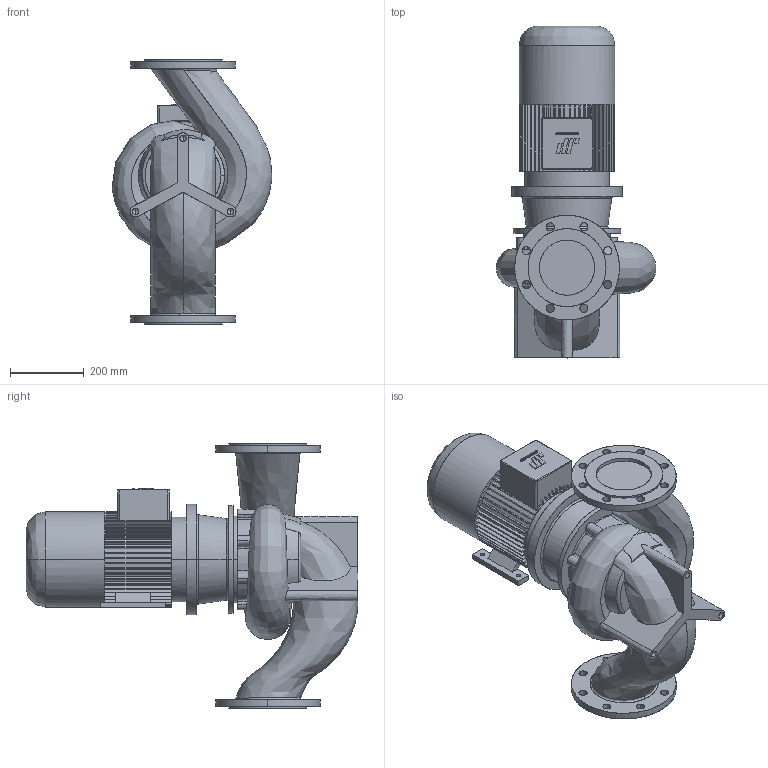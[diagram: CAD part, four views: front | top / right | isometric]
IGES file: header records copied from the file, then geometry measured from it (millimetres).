
Start section: CombiLine
Global section: file name: CLB_150-200_IEC132S_ND10.igs; native system:  By UGS Corp.; preprocessor: XPlus GENERIC/IGES 3.0; author: Stageplaats; organization: Johnson Pump Water B.V.; date: 20070717.142906; units: millimetre
Bounding box: 434.7 x 902.5 x 720 mm (x, y, z)
Surface area: 1907069.9 mm2 (no closed solid volume)
Topology: 0 solids, 0 shells, 600 faces, 3641 edges, 3635 vertices
Faces by surface type: bspline 600
